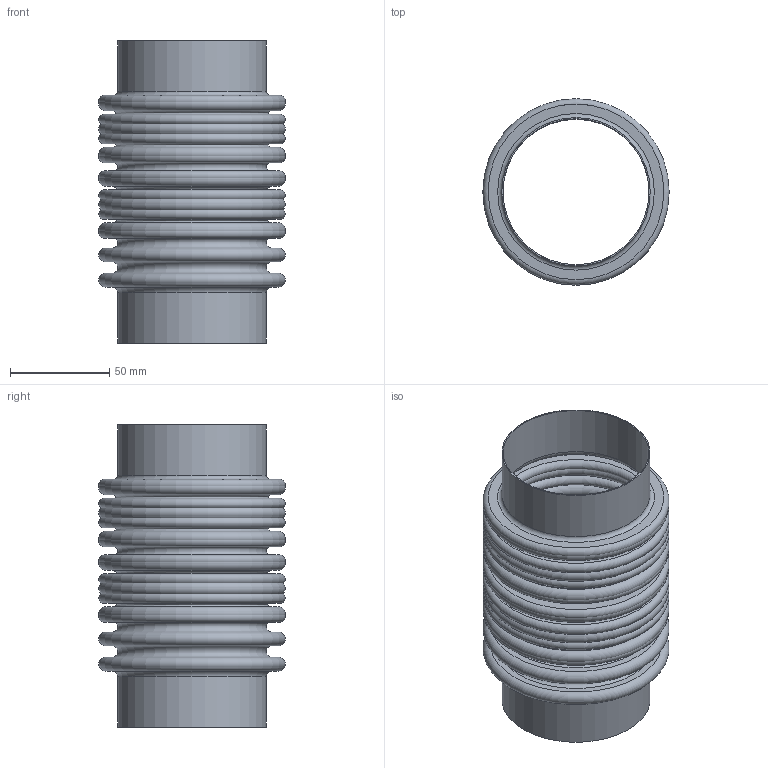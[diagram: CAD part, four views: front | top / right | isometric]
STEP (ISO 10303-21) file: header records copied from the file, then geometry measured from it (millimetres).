
FILE_DESCRIPTION(/* description */ ('STOCK BELLOWS: U.S-2.5-8-300S, 2.900 I.D., 3.700 O.D., 1 PLY, 24 GA (0.024 THICK), 8 CONS., 0.500 PITCH, 1.000 TANGENT. '),/* implementation_level */ '2;1');
FILE_NAME(/* name */ 'STOCK BELLOW - US-2.5-8-300S.stp',/* time_stamp */ '2026-07-21T13:16:12-05:00',/* author */ ('KennethB'),/* organization */ (''),/* preprocessor_version */ 'ST-DEVELOPER v20.1',/* originating_system */ 'Autodesk Inventor 2026',/* authorisation */ '');
FILE_SCHEMA (('AUTOMOTIVE_DESIGN { 1 0 10303 214 3 1 1 }'));
Length unit declared in the file: inch
Products named in the file (1): STOCK BELLOW - US-2.5-8-300S
Bounding box: 93.98 x 93.98 x 152.4 mm (x, y, z)
Volume: 79800.8 mm3; surface area: 263520.5 mm2
Topology: 6 solids, 6 shells, 152 faces, 236 edges, 170 vertices
Faces by surface type: plane 76, torus 68, cylinder 8
Full cylindrical faces by diameter (mm): 73.66 x4, 74.879 x4
Entity records: 3678 total; most frequent: DIRECTION 754, CARTESIAN_POINT 551, ORIENTED_EDGE 456, AXIS2_PLACEMENT_3D 373, EDGE_LOOP 228, EDGE_CURVE 228, CIRCLE 220, FACE_OUTER_BOUND 152
